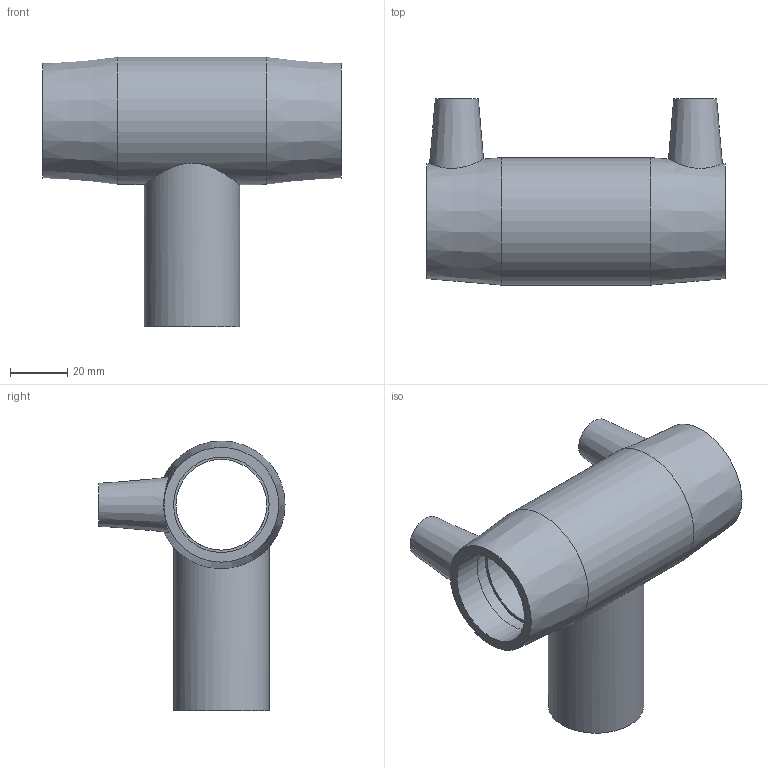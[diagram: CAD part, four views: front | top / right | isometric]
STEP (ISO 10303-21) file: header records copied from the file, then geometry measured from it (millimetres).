
FILE_DESCRIPTION(/* description */ ('PLASSON TEE 1''''IPS'),/* implementation_level */ '2;1');
FILE_NAME(/* name */ 'C:\Dropbox\KIMPROJECTS-Inventor 2019\99-16-3568-Processing Inch\ASTM ElectroFusion 2021\5904B\5904B003010.ipt.stp',/* time_stamp */ '2021-08-30T09:49:32+03:00',/* author */ ('KIM'),/* organization */ (''),/* preprocessor_version */ 'ST-DEVELOPER v17.2',/* originating_system */ 'Autodesk Inventor 2019',/* authorisation */ '');
FILE_SCHEMA (('AUTOMOTIVE_DESIGN { 1 0 10303 214 3 1 1 }'));
Length unit declared in the file: inch
Products named in the file (1): 5904B003010
Bounding box: 103.89 x 64.9 x 94.11 mm (x, y, z)
Volume: 86779.5 mm3; surface area: 38071.8 mm2
Topology: 1 solids, 1 shells, 31 faces, 70 edges, 52 vertices
Faces by surface type: plane 13, cylinder 12, cone 6
Full cylindrical faces by diameter (mm): 4.8 x2, 9.6 x2, 26.64 x1, 31.635 x1, 33.3 x5, 44.45 x1
Entity records: 1127 total; most frequent: CARTESIAN_POINT 330, DIRECTION 170, ORIENTED_EDGE 140, AXIS2_PLACEMENT_3D 76, EDGE_CURVE 70, VERTEX_POINT 52, EDGE_LOOP 46, CIRCLE 44
